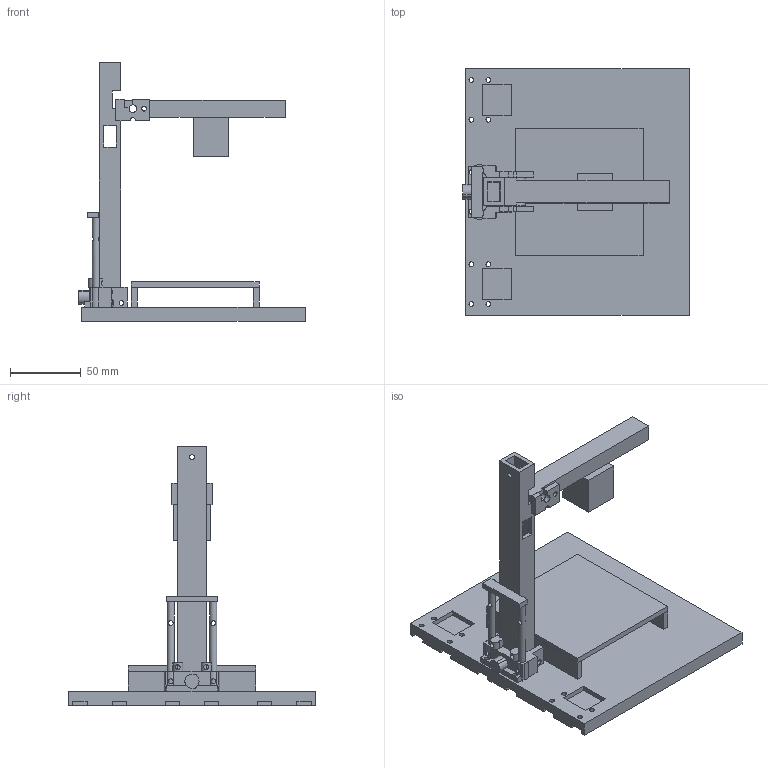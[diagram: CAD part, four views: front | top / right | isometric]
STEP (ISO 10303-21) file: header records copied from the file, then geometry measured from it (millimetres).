
FILE_DESCRIPTION(('Open CASCADE Model'),'2;1');
FILE_NAME('F07_asm_open','2026-11-15T22:32:21',('Author'),( 'Open CASCADE'),'Open CASCADE STEP processor 8.0','build123d', 'Unknown');
FILE_SCHEMA(('AUTOMOTIVE_DESIGN { 1 0 10303 214 1 1 1 1 }'));
Length unit declared in the file: millimetre
Products named in the file (7): F07_asm_open; BASE; BED; TWR_0; CAR_0; COL_0; ARM
Assembly tree (6 placements, depth 2):
  F07_asm_open
    BASE
    BED
    TWR_0
    CAR_0
    COL_0
    ARM
Bounding box: 159.5 x 173.5 x 182.5 mm (x, y, z)
Volume: 391404.9 mm3; surface area: 128948.4 mm2
Topology: 6 solids, 6 shells, 289 faces, 800 edges, 526 vertices
Faces by surface type: plane 224, cylinder 65
Full cylindrical faces by diameter (mm): 3.4 x36, 5 x2, 5.3 x4, 5.4 x2
Entity records: 25074 total; most frequent: CARTESIAN_POINT 9580, DIRECTION 2602, LINE 1612, VECTOR 1612, ORIENTED_EDGE 1600, PCURVE 1600, DEFINITIONAL_REPRESENTATION 1600, EDGE_CURVE 800
